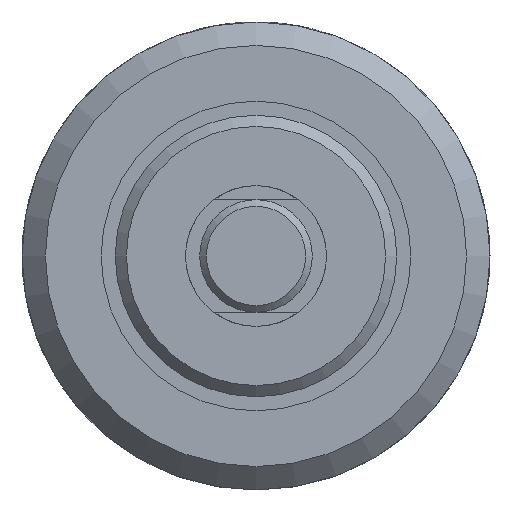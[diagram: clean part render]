
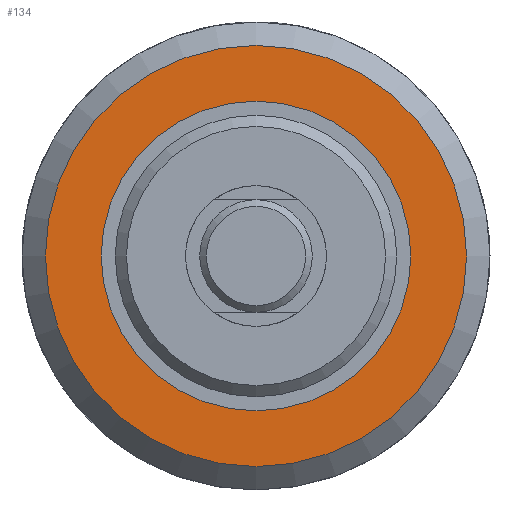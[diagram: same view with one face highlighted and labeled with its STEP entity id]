
A CAD part, left-side view. The second image highlights one B-rep face of the part: STEP entity #134.
In plain terms, the highlighted planar face has unit normal (-1, 0, 0).
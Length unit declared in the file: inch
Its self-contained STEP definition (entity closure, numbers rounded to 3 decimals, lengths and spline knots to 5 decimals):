
#134 = ADVANCED_FACE( '', ( #283, #284 ), #285, .F. );
#283 = FACE_OUTER_BOUND( '', #477, .T. );
#284 = FACE_BOUND( '', #478, .T. );
#285 = PLANE( '', #479 );
#477 = EDGE_LOOP( '', ( #685 ) );
#478 = EDGE_LOOP( '', ( #686 ) );
#479 = AXIS2_PLACEMENT_3D( '', #687, #688, #689 );
#685 = ORIENTED_EDGE( '', *, *, #974, .F. );
#686 = ORIENTED_EDGE( '', *, *, #975, .T. );
#687 = CARTESIAN_POINT( '', ( 0.813, 0.6875, 0. ) );
#688 = DIRECTION( '', ( 1., 0., 0. ) );
#689 = DIRECTION( '', ( 0., 0., -1. ) );
#974 = EDGE_CURVE( '', #1105, #1105, #1106, .T. );
#975 = EDGE_CURVE( '', #1107, #1107, #1108, .T. );
#1105 = VERTEX_POINT( '', #1278 );
#1106 = CIRCLE( '', #1279, 0.9351 );
#1107 = VERTEX_POINT( '', #1280 );
#1108 = CIRCLE( '', #1281, 0.6875 );
#1278 = CARTESIAN_POINT( '', ( 0.813, 0., -0.9351 ) );
#1279 = AXIS2_PLACEMENT_3D( '', #1556, #1557, #1558 );
#1280 = CARTESIAN_POINT( '', ( 0.813, 0., -0.6875 ) );
#1281 = AXIS2_PLACEMENT_3D( '', #1559, #1560, #1561 );
#1556 = CARTESIAN_POINT( '', ( 0.813, 0., 0. ) );
#1557 = DIRECTION( '', ( 1., 0., 0. ) );
#1558 = DIRECTION( '', ( 0., 0., -1. ) );
#1559 = CARTESIAN_POINT( '', ( 0.813, 0., 0. ) );
#1560 = DIRECTION( '', ( 1., 0., 0. ) );
#1561 = DIRECTION( '', ( 0., 0., -1. ) );
